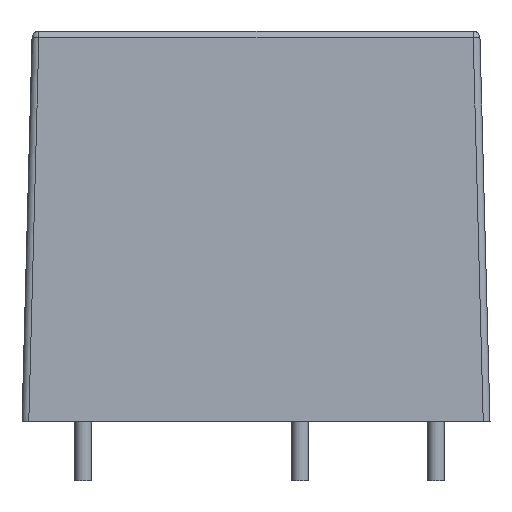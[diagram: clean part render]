
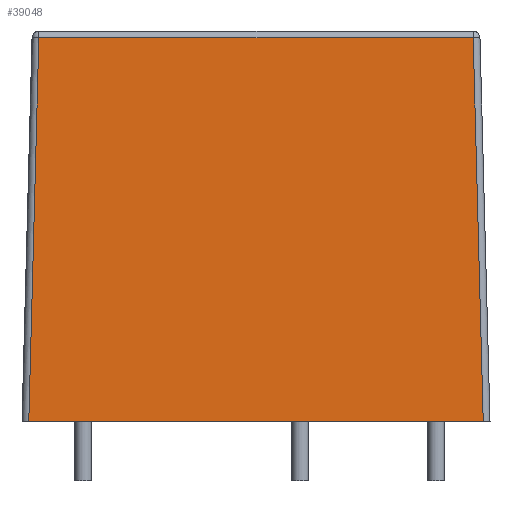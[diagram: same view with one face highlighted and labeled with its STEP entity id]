
A CAD part, left-side view. The second image highlights one B-rep face of the part: STEP entity #39048.
In plain terms, the highlighted planar face has unit normal (-1, 0, 0.026).
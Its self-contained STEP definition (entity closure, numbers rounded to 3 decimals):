
#1006 = LINE ( 'NONE', #34867, #22313 ) ;
#1292 = DIRECTION ( 'NONE',  ( -0.026, 0., -1. ) ) ;
#3716 = CARTESIAN_POINT ( 'NONE',  ( -0.438, 24.804, 18.11 ) ) ;
#5986 = DIRECTION ( 'NONE',  ( 0., -1., 0. ) ) ;
#8380 = ORIENTED_EDGE ( 'NONE', *, *, #47107, .T. ) ;
#9319 = EDGE_LOOP ( 'NONE', ( #38429, #8380, #20726, #46095 ) ) ;
#9399 = DIRECTION ( 'NONE',  ( -1., 0., 0.026 ) ) ;
#9851 = DIRECTION ( 'NONE',  ( 0.026, 0.026, 0.999 ) ) ;
#10221 = EDGE_CURVE ( 'NONE', #44152, #21993, #24866, .T. ) ;
#10961 = CARTESIAN_POINT ( 'NONE',  ( -0.438, -0.813, 18.11 ) ) ;
#11452 = EDGE_CURVE ( 'NONE', #15698, #29556, #39173, .T. ) ;
#15636 = AXIS2_PLACEMENT_3D ( 'NONE', #42521, #9399, #1292 ) ;
#15698 = VERTEX_POINT ( 'NONE', #29366 ) ;
#15972 = DIRECTION ( 'NONE',  ( 0.026, -0.026, 0.999 ) ) ;
#16022 = FACE_OUTER_BOUND ( 'NONE', #9319, .T. ) ;
#16947 = CARTESIAN_POINT ( 'NONE',  ( -1.03, -1.405, -4.5 ) ) ;
#19146 = VECTOR ( 'NONE', #5986, 1000. ) ;
#20726 = ORIENTED_EDGE ( 'NONE', *, *, #10221, .F. ) ;
#21993 = VERTEX_POINT ( 'NONE', #10961 ) ;
#22313 = VECTOR ( 'NONE', #15972, 1000. ) ;
#24751 = VECTOR ( 'NONE', #43098, 1000. ) ;
#24866 = LINE ( 'NONE', #39851, #19146 ) ;
#29366 = CARTESIAN_POINT ( 'NONE',  ( -1.03, -1.405, -4.5 ) ) ;
#29556 = VERTEX_POINT ( 'NONE', #43811 ) ;
#32394 = LINE ( 'NONE', #16947, #43306 ) ;
#33681 = PLANE ( 'NONE',  #15636 ) ;
#34867 = CARTESIAN_POINT ( 'NONE',  ( -1.03, 25.396, -4.5 ) ) ;
#38429 = ORIENTED_EDGE ( 'NONE', *, *, #11452, .F. ) ;
#39048 = ADVANCED_FACE ( 'NONE', ( #16022 ), #33681, .T. ) ;
#39173 = LINE ( 'NONE', #47070, #24751 ) ;
#39851 = CARTESIAN_POINT ( 'NONE',  ( -0.438, 24.804, 18.11 ) ) ;
#42521 = CARTESIAN_POINT ( 'NONE',  ( -1.03, -3.57, -4.5 ) ) ;
#43003 = EDGE_CURVE ( 'NONE', #29556, #44152, #1006, .T. ) ;
#43098 = DIRECTION ( 'NONE',  ( 0., 1., 0. ) ) ;
#43306 = VECTOR ( 'NONE', #9851, 1000. ) ;
#43811 = CARTESIAN_POINT ( 'NONE',  ( -1.03, 25.396, -4.5 ) ) ;
#44152 = VERTEX_POINT ( 'NONE', #3716 ) ;
#46095 = ORIENTED_EDGE ( 'NONE', *, *, #43003, .F. ) ;
#47070 = CARTESIAN_POINT ( 'NONE',  ( -1.03, -1.405, -4.5 ) ) ;
#47107 = EDGE_CURVE ( 'NONE', #15698, #21993, #32394, .T. ) ;
